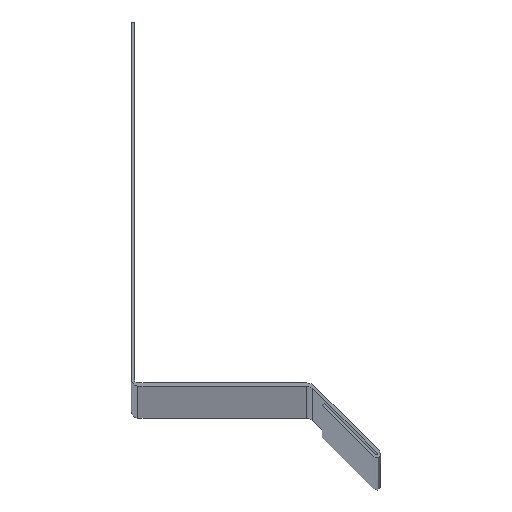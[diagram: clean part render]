
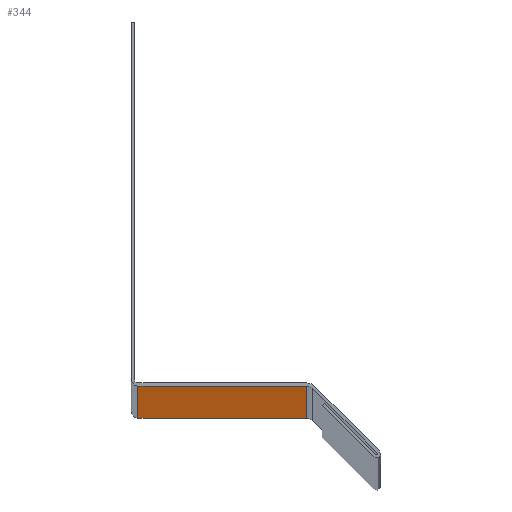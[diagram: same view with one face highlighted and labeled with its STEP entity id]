
A CAD part, top view. The second image highlights one B-rep face of the part: STEP entity #344.
In plain terms, the highlighted planar face has unit normal (0, -1, 0).
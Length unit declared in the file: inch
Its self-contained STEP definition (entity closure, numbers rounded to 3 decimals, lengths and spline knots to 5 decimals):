
#24=PLANE('',#396);
#42=FACE_OUTER_BOUND('',#60,.T.);
#60=EDGE_LOOP('',(#287,#288,#289,#290));
#63=LINE('',#503,#99);
#96=LINE('',#590,#132);
#97=LINE('',#592,#133);
#98=LINE('',#593,#134);
#99=VECTOR('',#405,0.3937);
#132=VECTOR('',#488,0.3937);
#133=VECTOR('',#491,0.3937);
#134=VECTOR('',#492,0.3937);
#147=VERTEX_POINT('',#499);
#149=VERTEX_POINT('',#502);
#177=VERTEX_POINT('',#586);
#178=VERTEX_POINT('',#588);
#180=EDGE_CURVE('',#147,#149,#63,.T.);
#224=EDGE_CURVE('',#177,#178,#96,.T.);
#225=EDGE_CURVE('',#177,#147,#97,.T.);
#226=EDGE_CURVE('',#149,#178,#98,.T.);
#287=ORIENTED_EDGE('',*,*,#225,.F.);
#288=ORIENTED_EDGE('',*,*,#224,.T.);
#289=ORIENTED_EDGE('',*,*,#226,.F.);
#290=ORIENTED_EDGE('',*,*,#180,.F.);
#344=ADVANCED_FACE('',(#42),#24,.T.);
#396=AXIS2_PLACEMENT_3D('',#591,#489,#490);
#405=DIRECTION('',(0.,0.,-1.));
#488=DIRECTION('',(0.,0.,-1.));
#489=DIRECTION('center_axis',(0.,-1.,0.));
#490=DIRECTION('ref_axis',(-1.,0.,0.));
#491=DIRECTION('',(1.,0.,0.));
#492=DIRECTION('',(-1.,0.,0.));
#499=CARTESIAN_POINT('',(0.54739,-1.19392,0.));
#502=CARTESIAN_POINT('',(0.54739,-1.19392,-120.));
#503=CARTESIAN_POINT('',(0.54739,-1.19392,0.));
#586=CARTESIAN_POINT('',(-0.55461,-1.19392,0.));
#588=CARTESIAN_POINT('',(-0.55461,-1.19392,-120.));
#590=CARTESIAN_POINT('',(-0.55461,-1.19392,0.));
#591=CARTESIAN_POINT('Origin',(0.54739,-1.19392,0.));
#592=CARTESIAN_POINT('',(-0.55461,-1.19392,0.));
#593=CARTESIAN_POINT('',(-0.55461,-1.19392,-120.));
